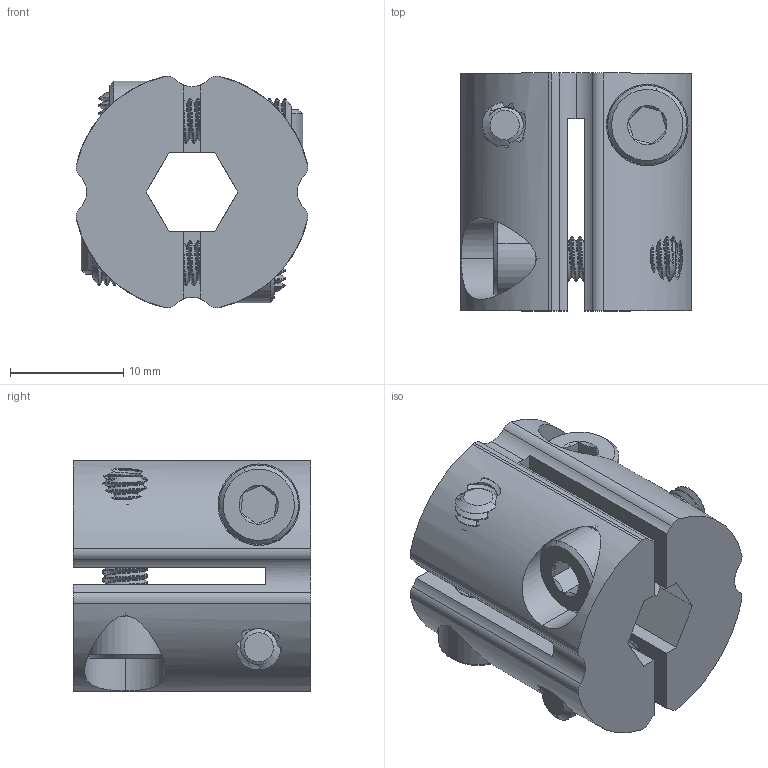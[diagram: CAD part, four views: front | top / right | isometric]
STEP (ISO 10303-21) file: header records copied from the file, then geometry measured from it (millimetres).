
FILE_DESCRIPTION (( 'STEP AP203' ), '1' );
FILE_NAME ('4007-4008-4008 assembly.STEP', '2019-10-22T20:27:42', ( '' ), ( '' ), 'SwSTEP 2.0', 'SolidWorks 2016', '' );
FILE_SCHEMA (( 'CONFIG_CONTROL_DESIGN' ));
Length unit declared in the file: millimetre
Products named in the file (3): 2800-0004-0012_90128A207; 4007-4008-4008; 4007-4008-4008 assembly
Assembly tree (5 placements, depth 2):
  4007-4008-4008 assembly
    4007-4008-4008
    2800-0004-0012_90128A207  x4
Bounding box: 20.49 x 21 x 20.5 mm (x, y, z)
Volume: 5328.4 mm3; surface area: 5541 mm2
Topology: 5 solids, 5 shells, 667 faces, 1873 edges, 1226 vertices
Faces by surface type: cylinder 505, plane 66, cone 52, bspline 44
Entity records: 55738 total; most frequent: CARTESIAN_POINT 47220, ORIENTED_EDGE 2192, DIRECTION 1231, EDGE_CURVE 1096, VERTEX_POINT 725, AXIS2_PLACEMENT_3D 451, EDGE_LOOP 401, FACE_OUTER_BOUND 379
